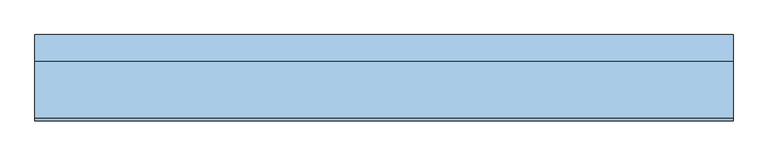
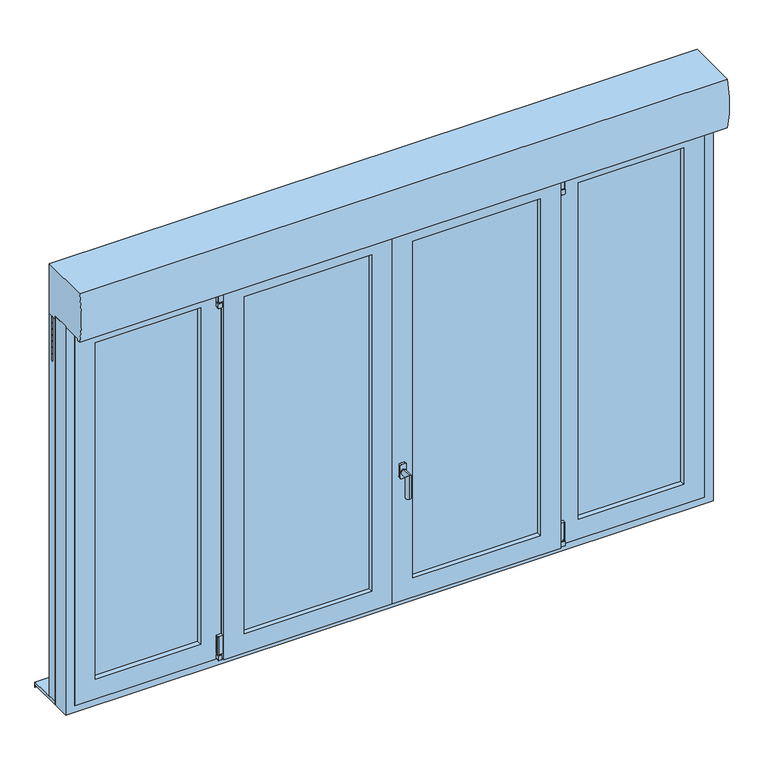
"""IFC4 building model written with IfcOpenShell, lengths in millimetres: window geometry, 9. OF2 + 2 Fixes à G et à D ENR PVC-ALU : 260X165 (LXH) cm."""

from ifc_helpers import new_model, si_unit, point, frame, frame_2d, origin, place, context, project, spatial, polyline, circle_curve, ellipse_curve, trimmed, segment, composite_curve, outline, extrude, faceted_brep, source, transform, mapped, element, save
from ifc_brep_helpers import plane_surface, cylinder_surface, advanced_brep


def window_6b0d1190(model_context):
    return source(origin(), model_context, "Body", "SolidModel", [
        extrude(outline(composite_curve([segment(trimmed(circle_curve(frame_2d((-688.6885562, -107.5530691)), 5.0), [point((-683.6885562, -107.5530691))], [point((-693.6885562, -107.5530691))], False, "CARTESIAN"), True, "CONTINUOUS"), segment(trimmed(circle_curve(frame_2d((-688.6885562, -107.5530691)), 5.0), [point((-693.6885562, -107.5530691))], [point((-683.6885562, -107.5530691))], False, "CARTESIAN"), True, "CONTINUOUS")], self_intersect=False)), frame((0.0, 0.0, 848.448), z_axis=(0.0, 0.0, 1.0), x_axis=(1.0, 0.0, 0.0)), (0.0, 0.0, 1.0), 5.0),
        extrude(outline(composite_curve([segment(polyline([(848.448, -696.1885562), (830.0982054, -696.1885562)]), True, "CONTINUOUS"), segment(trimmed(circle_curve(frame_2d((830.4216694, -694.2148867)), 2.0), [point((830.0982054, -696.1885562))], [point((828.448, -694.5383507))], False, "CARTESIAN"), True, "CONTINUOUS"), segment(polyline([(828.448, -694.5383507), (828.448, -683.1978059)]), True, "CONTINUOUS"), segment(trimmed(circle_curve(frame_2d((830.4572498, -683.1978059)), 2.0092498), [point((828.448, -683.1978059))], [point((830.4572498, -681.1885562))], False, "CARTESIAN"), True, "CONTINUOUS"), segment(polyline([(830.4572498, -681.1885562), (848.448, -681.1885562), (848.448, -696.1885562)]), True, "CONTINUOUS")], self_intersect=False)), frame((0.0, -115.0434807, 0.0), z_axis=(0.0, 1.0, 0.0), x_axis=(0.0, 0.0, 1.0)), (0.0, 0.0, 1.0), 15.0),
        extrude(outline(composite_curve([segment(polyline([(-675.968, -100.0530691), (-675.968, -115.0530691), (-693.9498225, -115.0530691)]), True, "CONTINUOUS"), segment(trimmed(circle_curve(frame_2d((-693.9498225, -113.0348917)), 2.0181775), [point((-693.9498225, -115.0530691))], [point((-695.968, -113.0348917))], False, "CARTESIAN"), True, "CONTINUOUS"), segment(polyline([(-695.968, -113.0348917), (-695.968, -102.0112454)]), True, "CONTINUOUS"), segment(trimmed(circle_curve(frame_2d((-694.0098237, -102.0112454)), 1.9581763), [point((-695.968, -102.0112454))], [point((-694.0098237, -100.0530691))], False, "CARTESIAN"), True, "CONTINUOUS"), segment(polyline([(-694.0098237, -100.0530691), (-675.968, -100.0530691)]), True, "CONTINUOUS")], self_intersect=False)), frame((0.0, 0.0, 853.448), z_axis=(0.0, 0.0, 1.0), x_axis=(1.0, 0.0, 0.0)), (0.0, 0.0, 1.0), 75.0),
        extrude(outline(composite_curve([segment(polyline([(2401.552, -680.968), (2419.5843246, -680.968)]), True, "CONTINUOUS"), segment(trimmed(circle_curve(frame_2d((2419.5843246, -682.9356754)), 1.9676754), [point((2419.5843246, -680.968))], [point((2421.552, -682.9356754))], False, "CARTESIAN"), True, "CONTINUOUS"), segment(polyline([(2421.552, -682.9356754), (2421.552, -693.9743831)]), True, "CONTINUOUS"), segment(trimmed(circle_curve(frame_2d((2419.5583831, -693.9743831)), 1.9936169), [point((2421.552, -693.9743831))], [point((2419.5583831, -695.968))], False, "CARTESIAN"), True, "CONTINUOUS"), segment(polyline([(2419.5583831, -695.968), (2401.552, -695.968), (2401.552, -680.968)]), True, "CONTINUOUS")], self_intersect=False)), frame((0.0, -115.881543, 0.0), z_axis=(0.0, 1.0, 0.0), x_axis=(0.0, 0.0, 1.0)), (0.0, 0.0, 1.0), 15.0),
        extrude(outline(composite_curve([segment(trimmed(circle_curve(frame_2d((-688.6885562, -108.3911314)), 5.0), [point((-683.6885562, -108.3911314))], [point((-693.6885562, -108.3911314))], False, "CARTESIAN"), True, "CONTINUOUS"), segment(trimmed(circle_curve(frame_2d((-688.6885562, -108.3911314)), 5.0), [point((-693.6885562, -108.3911314))], [point((-683.6885562, -108.3911314))], False, "CARTESIAN"), True, "CONTINUOUS")], self_intersect=False)), frame((0.0, 0.0, 2341.552), z_axis=(0.0, 0.0, 1.0), x_axis=(1.0, 0.0, 0.0)), (0.0, 0.0, 1.0), 60.0),
        extrude(outline(composite_curve([segment(polyline([(-675.968, -100.8911314), (-675.968, -115.8911314), (-693.9498225, -115.8911314)]), True, "CONTINUOUS"), segment(trimmed(circle_curve(frame_2d((-693.9498225, -113.8729539)), 2.0181775), [point((-693.9498225, -115.8911314))], [point((-695.968, -113.8729539))], False, "CARTESIAN"), True, "CONTINUOUS"), segment(polyline([(-695.968, -113.8729539), (-695.968, -102.8493076)]), True, "CONTINUOUS"), segment(trimmed(circle_curve(frame_2d((-694.0098237, -102.8493076)), 1.9581763), [point((-695.968, -102.8493076))], [point((-694.0098237, -100.8911314))], False, "CARTESIAN"), True, "CONTINUOUS"), segment(polyline([(-694.0098237, -100.8911314), (-675.968, -100.8911314)]), True, "CONTINUOUS")], self_intersect=False)), frame((0.0, 0.0, 2347.2784618), z_axis=(0.0, 0.0, 1.0), x_axis=(1.0, 0.0, 0.0)), (0.0, 0.0, 1.0), 50.0),
        extrude(outline(composite_curve([segment(polyline([(2342.2784618, -696.1885562), (2323.9286672, -696.1885562)]), True, "CONTINUOUS"), segment(trimmed(circle_curve(frame_2d((2324.2521312, -694.2148867)), 2.0), [point((2323.9286672, -696.1885562))], [point((2322.2784618, -694.5383507))], False, "CARTESIAN"), True, "CONTINUOUS"), segment(polyline([(2322.2784618, -694.5383507), (2322.2784618, -683.1978059)]), True, "CONTINUOUS"), segment(trimmed(circle_curve(frame_2d((2324.2877116, -683.1978059)), 2.0092498), [point((2322.2784618, -683.1978059))], [point((2324.2877116, -681.1885562))], False, "CARTESIAN"), True, "CONTINUOUS"), segment(polyline([(2324.2877116, -681.1885562), (2342.2784618, -681.1885562), (2342.2784618, -696.1885562)]), True, "CONTINUOUS")], self_intersect=False)), frame((0.0, -115.881543, 0.0), z_axis=(0.0, 1.0, 0.0), x_axis=(0.0, 0.0, 1.0)), (0.0, 0.0, 1.0), 15.0),
        extrude(outline(composite_curve([segment(polyline([(2401.552, 680.968), (2401.552, 695.968), (2419.5583831, 695.968)]), True, "CONTINUOUS"), segment(trimmed(circle_curve(frame_2d((2419.5583831, 693.9743831)), 1.9936169), [point((2419.5583831, 695.968))], [point((2421.552, 693.9743831))], False, "CARTESIAN"), True, "CONTINUOUS"), segment(polyline([(2421.552, 693.9743831), (2421.552, 682.9356754)]), True, "CONTINUOUS"), segment(trimmed(circle_curve(frame_2d((2419.5843246, 682.9356754)), 1.9676754), [point((2421.552, 682.9356754))], [point((2419.5843246, 680.968))], False, "CARTESIAN"), True, "CONTINUOUS"), segment(polyline([(2419.5843246, 680.968), (2401.552, 680.968)]), True, "CONTINUOUS")], self_intersect=False)), frame((0.0, -115.881543, 0.0), z_axis=(0.0, 1.0, 0.0), x_axis=(0.0, 0.0, 1.0)), (0.0, 0.0, 1.0), 15.0),
        extrude(outline(composite_curve([segment(trimmed(circle_curve(frame_2d((688.6885562, -108.3911314)), 5.0), [point((683.6885562, -108.3911314))], [point((693.6885562, -108.3911314))], False, "CARTESIAN"), True, "CONTINUOUS"), segment(trimmed(circle_curve(frame_2d((688.6885562, -108.3911314)), 5.0), [point((693.6885562, -108.3911314))], [point((683.6885562, -108.3911314))], False, "CARTESIAN"), True, "CONTINUOUS")], self_intersect=False)), frame((0.0, 0.0, 2341.552), z_axis=(0.0, 0.0, 1.0), x_axis=(1.0, 0.0, 0.0)), (0.0, 0.0, 1.0), 60.0),
        extrude(outline(composite_curve([segment(polyline([(675.968, -100.8911314), (694.0098237, -100.8911314)]), True, "CONTINUOUS"), segment(trimmed(circle_curve(frame_2d((694.0098237, -102.8493076)), 1.9581763), [point((694.0098237, -100.8911314))], [point((695.968, -102.8493076))], False, "CARTESIAN"), True, "CONTINUOUS"), segment(polyline([(695.968, -102.8493076), (695.968, -113.8729539)]), True, "CONTINUOUS"), segment(trimmed(circle_curve(frame_2d((693.9498225, -113.8729539)), 2.0181775), [point((695.968, -113.8729539))], [point((693.9498225, -115.8911314))], False, "CARTESIAN"), True, "CONTINUOUS"), segment(polyline([(693.9498225, -115.8911314), (675.968, -115.8911314), (675.968, -100.8911314)]), True, "CONTINUOUS")], self_intersect=False)), frame((0.0, 0.0, 2347.2784618), z_axis=(0.0, 0.0, 1.0), x_axis=(1.0, 0.0, 0.0)), (0.0, 0.0, 1.0), 50.0),
        extrude(outline(composite_curve([segment(polyline([(2342.2784618, 696.1885562), (2342.2784618, 681.1885562), (2324.2877116, 681.1885562)]), True, "CONTINUOUS"), segment(trimmed(circle_curve(frame_2d((2324.2877116, 683.1978059)), 2.0092498), [point((2324.2877116, 681.1885562))], [point((2322.2784618, 683.1978059))], False, "CARTESIAN"), True, "CONTINUOUS"), segment(polyline([(2322.2784618, 683.1978059), (2322.2784618, 694.5383507)]), True, "CONTINUOUS"), segment(trimmed(circle_curve(frame_2d((2324.2521312, 694.2148867)), 2.0), [point((2322.2784618, 694.5383507))], [point((2323.9286672, 696.1885562))], False, "CARTESIAN"), True, "CONTINUOUS"), segment(polyline([(2323.9286672, 696.1885562), (2342.2784618, 696.1885562)]), True, "CONTINUOUS")], self_intersect=False)), frame((0.0, -115.881543, 0.0), z_axis=(0.0, 1.0, 0.0), x_axis=(0.0, 0.0, 1.0)), (0.0, 0.0, 1.0), 15.0),
        extrude(outline(composite_curve([segment(trimmed(circle_curve(frame_2d((688.6885562, -107.5530691)), 5.0), [point((683.6885562, -107.5530691))], [point((693.6885562, -107.5530691))], False, "CARTESIAN"), True, "CONTINUOUS"), segment(trimmed(circle_curve(frame_2d((688.6885562, -107.5530691)), 5.0), [point((693.6885562, -107.5530691))], [point((683.6885562, -107.5530691))], False, "CARTESIAN"), True, "CONTINUOUS")], self_intersect=False)), frame((0.0, 0.0, 848.448), z_axis=(0.0, 0.0, 1.0), x_axis=(1.0, 0.0, 0.0)), (0.0, 0.0, 1.0), 5.0),
        extrude(outline(composite_curve([segment(polyline([(848.448, 696.1885562), (848.448, 681.1885562), (830.4572498, 681.1885562)]), True, "CONTINUOUS"), segment(trimmed(circle_curve(frame_2d((830.4572498, 683.1978059)), 2.0092498), [point((830.4572498, 681.1885562))], [point((828.448, 683.1978059))], False, "CARTESIAN"), True, "CONTINUOUS"), segment(polyline([(828.448, 683.1978059), (828.448, 694.5383507)]), True, "CONTINUOUS"), segment(trimmed(circle_curve(frame_2d((830.4216694, 694.2148867)), 2.0), [point((828.448, 694.5383507))], [point((830.0982054, 696.1885562))], False, "CARTESIAN"), True, "CONTINUOUS"), segment(polyline([(830.0982054, 696.1885562), (848.448, 696.1885562)]), True, "CONTINUOUS")], self_intersect=False)), frame((0.0, -115.0434807, 0.0), z_axis=(0.0, 1.0, 0.0), x_axis=(0.0, 0.0, 1.0)), (0.0, 0.0, 1.0), 15.0),
        extrude(outline(composite_curve([segment(polyline([(675.968, -100.0530691), (694.0098237, -100.0530691)]), True, "CONTINUOUS"), segment(trimmed(circle_curve(frame_2d((694.0098237, -102.0112454)), 1.9581763), [point((694.0098237, -100.0530691))], [point((695.968, -102.0112454))], False, "CARTESIAN"), True, "CONTINUOUS"), segment(polyline([(695.968, -102.0112454), (695.968, -113.0348917)]), True, "CONTINUOUS"), segment(trimmed(circle_curve(frame_2d((693.9498225, -113.0348917)), 2.0181775), [point((695.968, -113.0348917))], [point((693.9498225, -115.0530691))], False, "CARTESIAN"), True, "CONTINUOUS"), segment(polyline([(693.9498225, -115.0530691), (675.968, -115.0530691), (675.968, -100.0530691)]), True, "CONTINUOUS")], self_intersect=False)), frame((0.0, 0.0, 853.448), z_axis=(0.0, 0.0, 1.0), x_axis=(1.0, 0.0, 0.0)), (0.0, 0.0, 1.0), 75.0),
        advanced_brep(
        [(46.5, -129.3239543, 1414.448), (31.5, -129.3239543, 1414.448), (26.5, -129.3239543, 1409.448), (26.5, -129.3239543, 1359.448), (31.5, -129.3239543, 1354.448), (46.5, -129.3239543, 1354.448), (51.5, -129.3239543, 1359.448), (51.5, -129.3239543, 1409.448), (39.2771873, -129.3239543, 1392.2518349), (39.2771873, -129.3239543, 1372.2518349), (46.5, -117.4674689, 1414.448), (51.5, -117.4674689, 1409.448), (51.5, -117.4674689, 1359.448), (46.5, -117.4674689, 1354.448), (31.5, -117.4674689, 1354.448), (26.5, -117.4674689, 1359.448), (26.5, -117.4674689, 1409.448), (31.5, -117.4674689, 1414.448), (39.2771873, -133.0531938, 1372.2518349), (39.2771873, -133.0531938, 1392.2518349), (39.2771873, -173.0531938, 1392.2518349), (39.2771873, -153.0531938, 1372.2518349), (39.2771873, -173.0531938, 1292.2518349), (39.2771873, -153.0531938, 1292.2518349)],
        [
            (0, 1),
            (1, 2, circle_curve(frame((31.5, -129.3239543, 1409.448), z_axis=(0.0, -1.0, 0.0), x_axis=(-1.0, 0.0, 0.0)), 5.0)),
            (2, 3),
            (3, 4, circle_curve(frame((31.5, -129.3239543, 1359.448), z_axis=(0.0, -1.0, 0.0), x_axis=(-1.0, 0.0, 0.0)), 5.0)),
            (4, 5),
            (5, 6, circle_curve(frame((46.5, -129.3239543, 1359.448), z_axis=(0.0, -1.0, 0.0), x_axis=(-1.0, 0.0, 0.0)), 5.0)),
            (6, 7),
            (7, 0, circle_curve(frame((46.5, -129.3239543, 1409.448), z_axis=(0.0, -1.0, 0.0), x_axis=(-1.0, 0.0, 0.0)), 5.0)),
            (8, 9, circle_curve(frame((39.2771873, -129.3239543, 1382.2518349), z_axis=(0.0, 1.0, 0.0), x_axis=(0.0, 0.0, -1.0)), 10.0)),
            (9, 8, circle_curve(frame((39.2771873, -129.3239543, 1382.2518349), z_axis=(0.0, 1.0, 0.0), x_axis=(0.0, 0.0, -1.0)), 10.0)),
            (10, 11, circle_curve(frame((46.5, -117.4674689, 1409.448), z_axis=(0.0, 1.0, 0.0), x_axis=(-1.0, 0.0, 0.0)), 5.0)),
            (11, 12),
            (12, 13, circle_curve(frame((46.5, -117.4674689, 1359.448), z_axis=(0.0, 1.0, 0.0), x_axis=(-1.0, 0.0, 0.0)), 5.0)),
            (13, 14),
            (14, 15, circle_curve(frame((31.5, -117.4674689, 1359.448), z_axis=(0.0, 1.0, 0.0), x_axis=(-1.0, 0.0, 0.0)), 5.0)),
            (15, 16),
            (16, 17, circle_curve(frame((31.5, -117.4674689, 1409.448), z_axis=(0.0, 1.0, 0.0), x_axis=(-1.0, 0.0, 0.0)), 5.0)),
            (17, 10),
            (7, 11),
            (10, 0),
            (6, 12),
            (5, 13),
            (4, 14),
            (3, 15),
            (2, 16),
            (1, 17),
            (18, 19, circle_curve(frame((39.2771873, -133.0531938, 1382.2518349), z_axis=(0.0, -1.0, 0.0), x_axis=(0.0, 0.0, -1.0)), 10.0)),
            (19, 20),
            (20, 21, ellipse_curve(frame((39.2771873, -163.0531938, 1382.2518349), z_axis=(0.0, 0.7071067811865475, 0.7071067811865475), x_axis=(0.0, 0.7071067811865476, -0.7071067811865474)), 14.1421356, 10.0)),
            (21, 18),
            (19, 18, circle_curve(frame((39.2771873, -133.0531938, 1382.2518349), z_axis=(0.0, -1.0, 0.0), x_axis=(0.0, 0.0, -1.0)), 10.0)),
            (21, 20, ellipse_curve(frame((39.2771873, -163.0531938, 1382.2518349), z_axis=(0.0, 0.7071067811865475, 0.7071067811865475), x_axis=(0.0, 0.7071067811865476, -0.7071067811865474)), 14.1421356, 10.0)),
            (22, 23, circle_curve(frame((39.2771873, -163.0531938, 1292.2518349), z_axis=(0.0, 0.0, -1.0), x_axis=(0.0, 1.0, 0.0)), 10.0)),
            (23, 22, circle_curve(frame((39.2771873, -163.0531938, 1292.2518349), z_axis=(0.0, 0.0, -1.0), x_axis=(0.0, 1.0, 0.0)), 10.0)),
            (20, 22),
            (23, 21),
            (18, 9),
            (8, 19),
        ],
        [
            plane_surface(frame((41.5, -129.3239543, 1409.448), z_axis=(0.0, -1.0, 0.0), x_axis=(0.0, 0.0, -1.0))),
            plane_surface(frame((41.5, -117.4674689, 1409.448), z_axis=(0.0, 1.0, 0.0), x_axis=(0.0, 0.0, 1.0))),
            cylinder_surface(frame((46.5, -129.3239543, 1409.448), z_axis=(0.0, 1.0, 0.0), x_axis=(-1.0, 0.0, 0.0)), 5.0),
            plane_surface(frame((51.5, -117.4674689, 1409.448), z_axis=(1.0, 0.0, 0.0), x_axis=(0.0, -1.0, 0.0))),
            cylinder_surface(frame((46.5, -129.3239543, 1359.448), z_axis=(0.0, 1.0, 0.0), x_axis=(-1.0, 0.0, 0.0)), 5.0),
            plane_surface(frame((46.5, -117.4674689, 1354.448), z_axis=(0.0, 0.0, -1.0), x_axis=(0.0, -1.0, 0.0))),
            cylinder_surface(frame((31.5, -129.3239543, 1359.448), z_axis=(0.0, 1.0, 0.0), x_axis=(-1.0, 0.0, 0.0)), 5.0),
            plane_surface(frame((26.5, -117.4674689, 1359.448), z_axis=(-1.0, 0.0, 0.0), x_axis=(0.0, -1.0, 0.0))),
            cylinder_surface(frame((31.5, -129.3239543, 1409.448), z_axis=(0.0, 1.0, 0.0), x_axis=(-1.0, 0.0, 0.0)), 5.0),
            plane_surface(frame((31.5, -117.4674689, 1414.448), z_axis=(0.0, 0.0, 1.0), x_axis=(0.0, -1.0, 0.0))),
            cylinder_surface(frame((39.2771873, -133.0531938, 1382.2518349), z_axis=(0.0, 1.0, 0.0), x_axis=(0.0, 0.0, -1.0)), 10.0),
            plane_surface(frame((51.5, -163.0531938, 1292.2518349), z_axis=(0.0, 0.0, -1.0), x_axis=(1.0, 0.0, 0.0))),
            cylinder_surface(frame((39.2771873, -163.0531938, 1382.2518349), z_axis=(0.0, 0.0, 1.0), x_axis=(0.0, 1.0, 0.0)), 10.0),
            cylinder_surface(frame((39.2771873, -129.3239543, 1382.2518349), z_axis=(0.0, 1.0, 0.0), x_axis=(0.0, 0.0, -1.0)), 10.0),
        ],
        [
            (0, [[1, 2, 3, 4, 5, 6, 7, 8], [9, 10]]),
            (1, [[11, 12, 13, 14, 15, 16, 17, 18]]),
            (2, [[-8, 19, -11, 20]]),
            (3, [[-7, 21, -12, -19]]),
            (4, [[-6, 22, -13, -21]]),
            (5, [[-5, 23, -14, -22]]),
            (6, [[-4, 24, -15, -23]]),
            (7, [[-3, 25, -16, -24]]),
            (8, [[-2, 26, -17, -25]]),
            (9, [[-1, -20, -18, -26]]),
            (10, [[27, 28, 29, 30]]),
            (10, [[-28, 31, -30, 32]]),
            (11, [[33, 34]]),
            (12, [[-29, 35, -34, 36]]),
            (12, [[-32, -36, -33, -35]]),
            (13, [[-27, 37, -9, 38]]),
            (13, [[-31, -38, -10, -37]]),
        ],
    ),
        faceted_brep([(-1300.0, -100.02, 2450.0), (-1300.0, -28.9, 2450.0), (-1300.0, -28.9, 800.0), (-1300.0, -100.02, 800.0), (1300.0, -28.9, 2450.0), (1300.0, -28.9, 800.0), (-1242.0983858, -28.9, 857.9016142), (1242.0983858, -28.9, 857.9016142), (1242.0983858, -28.9, 2392.0983858), (-1242.0983858, -28.9, 2392.0983858), (1300.0, -100.02, 800.0), (1300.0, -100.02, 2450.0), (-1263.424, -100.02, 2413.424), (1263.424, -100.02, 2413.424), (1263.424, -100.02, 836.576), (-1263.424, -100.02, 836.576), (-1263.424, -44.648, 2413.424), (-1263.424, -44.648, 836.576), (1263.424, -44.648, 836.576), (1263.424, -44.648, 2413.424), (-1242.0983858, -44.648, 2392.0983858), (1242.0983858, -44.648, 2392.0983858), (1242.0983858, -44.648, 857.9016142), (-1242.0983858, -44.648, 857.9016142)], [[[0, 1, 2, 3]], [[1, 4, 5, 2], [6, 7, 8, 9]], [[3, 2, 5, 10]], [[3, 10, 11, 0], [12, 13, 14, 15]], [[16, 12, 15, 17]], [[17, 15, 14, 18]], [[17, 18, 19, 16], [20, 21, 22, 23]], [[9, 20, 23, 6]], [[6, 23, 22, 7]], [[10, 5, 4, 11]], [[18, 14, 13, 19]], [[7, 22, 21, 8]], [[11, 4, 1, 0]], [[19, 13, 12, 16]], [[8, 21, 20, 9]]]),
        extrude(outline(polyline([(1195.324, -50.213906), (1195.324, -54.213906), (744.124, -54.213906), (744.124, -50.213906), (1195.324, -50.213906)])), frame((0.0, 0.0, 896.5824883), z_axis=(0.0, 0.0, 1.0), x_axis=(1.0, 0.0, 0.0)), (0.0, 0.0, 1.0), 1456.8350233),
        extrude(outline(polyline([(1195.324, -74.213906), (1195.324, -78.213906), (744.124, -78.213906), (744.124, -74.213906), (1195.324, -74.213906)])), frame((0.0, 0.0, 896.5824883), z_axis=(0.0, 0.0, 1.0), x_axis=(1.0, 0.0, 0.0)), (0.0, 0.0, 1.0), 1456.8350233),
        extrude(outline(polyline([(607.8464883, -96.019954), (607.8464883, -100.019954), (68.1464883, -100.019954), (68.1464883, -96.019954), (607.8464883, -96.019954)])), frame((0.0, 0.0, 896.5824883), z_axis=(0.0, 0.0, 1.0), x_axis=(1.0, 0.0, 0.0)), (0.0, 0.0, 1.0), 1456.8350233),
        extrude(outline(polyline([(607.8464883, -68.9786213), (607.8464883, -72.9786213), (68.1464883, -72.9786213), (68.1464883, -68.9786213), (607.8464883, -68.9786213)])), frame((0.0, 0.0, 896.5824883), z_axis=(0.0, 0.0, 1.0), x_axis=(1.0, 0.0, 0.0)), (0.0, 0.0, 1.0), 1456.8350233),
        extrude(outline(polyline([(607.8464883, -41.5821328), (607.8464883, -47.5821328), (68.1464883, -47.5821328), (68.1464883, -41.5821328), (607.8464883, -41.5821328)])), frame((0.0, 0.0, 896.5824883), z_axis=(0.0, 0.0, 1.0), x_axis=(1.0, 0.0, 0.0)), (0.0, 0.0, 1.0), 1456.8350233),
        faceted_brep([(705.4216142, -44.648, 857.9016142), (705.4216142, -28.9, 857.9016142), (1233.9703858, -28.9, 857.9016142), (1233.9703858, -44.648, 857.9016142), (1233.9703858, -28.9, 2392.0983858), (1233.9703858, -44.648, 2392.0983858), (705.4216142, -28.9, 2392.0983858), (1181.3960492, -28.9, 2339.5240492), (757.9959508, -28.9, 2339.5240492), (757.9959508, -28.9, 910.4759508), (1181.3960492, -28.9, 910.4759508), (1263.424, -44.648, 828.448), (675.968, -44.648, 828.448), (675.968, -44.648, 2421.552), (1263.424, -44.648, 2421.552), (705.4216142, -44.648, 2392.0983858), (1263.424, -100.963906, 2421.552), (1263.424, -100.963906, 828.448), (675.968, -100.963906, 2421.552), (675.968, -100.963906, 828.448), (1181.3960492, -100.963906, 910.4759508), (757.9959508, -100.963906, 910.4759508), (757.9959508, -100.963906, 2339.5240492), (1181.3960492, -100.963906, 2339.5240492), (757.9959508, -50.213906, 910.4759508), (1181.3960492, -50.213906, 910.4759508), (1181.3960492, -50.213906, 2339.5240492), (1195.2895117, -50.213906, 2353.4175117), (744.1024883, -50.213906, 2353.4175117), (744.1024883, -50.213906, 896.5824883), (1195.2895117, -50.213906, 896.5824883), (757.9959508, -50.213906, 2339.5240492), (744.1024883, -54.213906, 896.5824883), (1195.2895117, -54.213906, 896.5824883), (1195.2895117, -54.213906, 2353.4175117), (744.1024883, -54.213906, 2353.4175117), (1181.3960492, -54.213906, 2339.5240492), (757.9959508, -54.213906, 2339.5240492), (757.9959508, -54.213906, 910.4759508), (1181.3960492, -54.213906, 910.4759508), (757.9959508, -78.213906, 910.4759508), (1181.3960492, -78.213906, 910.4759508), (1181.3960492, -78.213906, 2339.5240492), (1195.2895117, -78.213906, 896.5824883), (744.1024883, -78.213906, 896.5824883), (744.1024883, -78.213906, 2353.4175117), (1195.2895117, -78.213906, 2353.4175117), (757.9959508, -78.213906, 2339.5240492), (757.9959508, -74.213906, 910.4759508), (1181.3960492, -74.213906, 910.4759508), (1181.3960492, -74.213906, 2339.5240492), (1195.2895117, -74.213906, 2353.4175117), (744.1024883, -74.213906, 2353.4175117), (744.1024883, -74.213906, 896.5824883), (1195.2895117, -74.213906, 896.5824883), (757.9959508, -74.213906, 2339.5240492)], [[[0, 1, 2, 3]], [[3, 2, 4, 5]], [[2, 1, 6, 4], [7, 8, 9, 10]], [[11, 12, 13, 14], [5, 15, 0, 3]], [[11, 14, 16, 17]], [[16, 18, 19, 17], [20, 21, 22, 23]], [[19, 12, 11, 17]], [[9, 24, 25, 10]], [[10, 25, 26, 7]], [[27, 28, 29, 30], [25, 24, 31, 26]], [[29, 32, 33, 30]], [[30, 33, 34, 27]], [[33, 32, 35, 34], [36, 37, 38, 39]], [[40, 21, 20, 41]], [[41, 20, 23, 42]], [[43, 44, 45, 46], [42, 47, 40, 41]], [[38, 48, 49, 39]], [[39, 49, 50, 36]], [[51, 52, 53, 54], [49, 48, 55, 50]], [[53, 44, 43, 54]], [[54, 43, 46, 51]], [[8, 31, 24, 9]], [[28, 35, 32, 29]], [[37, 55, 48, 38]], [[52, 45, 44, 53]], [[47, 22, 21, 40]], [[18, 13, 12, 19]], [[15, 6, 1, 0]], [[5, 4, 6, 15]], [[16, 14, 13, 18]], [[7, 26, 31, 8]], [[27, 34, 35, 28]], [[42, 23, 22, 47]], [[36, 50, 55, 37]], [[51, 46, 45, 52]]]),
        faceted_brep([(607.8335117, -72.9786213, 2353.4175117), (607.8335117, -68.9786213, 2353.4175117), (607.8335117, -68.9786213, 896.5824883), (607.8335117, -72.9786213, 896.5824883), (68.1464883, -68.9786213, 2353.4175117), (68.1464883, -68.9786213, 896.5824883), (590.6134041, -68.9786213, 913.8025959), (85.3665959, -68.9786213, 913.8025959), (85.3665959, -68.9786213, 2336.1974041), (590.6134041, -68.9786213, 2336.1974041), (68.1464883, -72.9786213, 896.5824883), (68.1464883, -72.9786213, 2353.4175117), (593.9400492, -72.9786213, 2339.5240492), (82.0399508, -72.9786213, 2339.5240492), (82.0399508, -72.9786213, 910.4759508), (593.9400492, -72.9786213, 910.4759508), (590.6134041, -47.5821328, 2336.1974041), (590.6134041, -47.5821328, 913.8025959), (607.8335117, -47.5821328, 896.5824883), (68.1464883, -47.5821328, 896.5824883), (68.1464883, -47.5821328, 2353.4175117), (607.8335117, -47.5821328, 2353.4175117), (85.3665959, -47.5821328, 2336.1974041), (85.3665959, -47.5821328, 913.8025959), (607.8335117, -41.5821328, 2353.4175117), (607.8335117, -41.5821328, 896.5824883), (68.1464883, -41.5821328, 2353.4175117), (68.1464883, -41.5821328, 896.5824883), (589.7553386, -41.5821328, 914.6606614), (86.2246614, -41.5821328, 914.6606614), (86.2246614, -41.5821328, 2335.3393386), (589.7553386, -41.5821328, 2335.3393386), (589.7553386, -28.7475756, 2335.3393386), (589.7553386, -28.7475756, 914.6606614), (640.9674701, -28.7475756, 863.4485299), (35.0125299, -28.7475756, 863.4485299), (35.0125299, -28.7475756, 2386.5514701), (640.9674701, -28.7475756, 2386.5514701), (86.2246614, -28.7475756, 2335.3393386), (86.2246614, -28.7475756, 914.6606614), (640.9674701, -48.2039543, 2386.5514701), (640.9674701, -48.2039543, 863.4485299), (35.0125299, -48.2039543, 2386.5514701), (35.0125299, -48.2039543, 863.4485299), (616.0246701, -48.2039543, 888.3913299), (59.9553299, -48.2039543, 888.3913299), (59.9553299, -48.2039543, 2361.6086701), (616.0246701, -48.2039543, 2361.6086701), (616.0246701, -100.019954, 2361.6086701), (616.0246701, -100.019954, 888.3913299), (59.9553299, -100.019954, 2361.6086701), (59.9553299, -100.019954, 888.3913299), (607.8335117, -100.019954, 896.5824883), (68.1464883, -100.019954, 896.5824883), (68.1464883, -100.019954, 2353.4175117), (607.8335117, -100.019954, 2353.4175117), (607.8335117, -96.019954, 2353.4175117), (607.8335117, -96.019954, 896.5824883), (68.1464883, -96.019954, 2353.4175117), (68.1464883, -96.019954, 896.5824883), (593.9400492, -96.019954, 910.4759508), (82.0399508, -96.019954, 910.4759508), (82.0399508, -96.019954, 2339.5240492), (593.9400492, -96.019954, 2339.5240492)], [[[0, 1, 2, 3]], [[1, 4, 5, 2], [6, 7, 8, 9]], [[3, 2, 5, 10]], [[3, 10, 11, 0], [12, 13, 14, 15]], [[9, 16, 17, 6]], [[18, 19, 20, 21], [16, 22, 23, 17]], [[6, 17, 23, 7]], [[21, 24, 25, 18]], [[24, 26, 27, 25], [28, 29, 30, 31]], [[18, 25, 27, 19]], [[31, 32, 33, 28]], [[34, 35, 36, 37], [32, 38, 39, 33]], [[28, 33, 39, 29]], [[37, 40, 41, 34]], [[40, 42, 43, 41], [44, 45, 46, 47]], [[34, 41, 43, 35]], [[47, 48, 49, 44]], [[48, 50, 51, 49], [52, 53, 54, 55]], [[44, 49, 51, 45]], [[55, 56, 57, 52]], [[56, 58, 59, 57], [60, 61, 62, 63]], [[52, 57, 59, 53]], [[63, 12, 15, 60]], [[60, 15, 14, 61]], [[10, 5, 4, 11]], [[7, 23, 22, 8]], [[19, 27, 26, 20]], [[29, 39, 38, 30]], [[35, 43, 42, 36]], [[45, 51, 50, 46]], [[53, 59, 58, 54]], [[61, 14, 13, 62]], [[11, 4, 1, 0]], [[8, 22, 16, 9]], [[20, 26, 24, 21]], [[30, 38, 32, 31]], [[36, 42, 40, 37]], [[46, 50, 48, 47]], [[54, 58, 56, 55]], [[62, 13, 12, 63]]]),
        faceted_brep([(0.012, -119.3239543, 828.448), (0.012, -100.0434807, 828.448), (675.968, -100.0434807, 828.448), (675.968, -119.3239543, 828.448), (675.968, -100.0434807, 2421.552), (675.968, -119.3239543, 2421.552), (0.012, -100.0434807, 2421.552), (655.648, -100.0434807, 2401.232), (20.332, -100.0434807, 2401.232), (20.332, -100.0434807, 848.768), (655.648, -100.0434807, 848.768), (0.012, -119.3239543, 2421.552), (593.7665043, -119.3239543, 910.6494957), (82.2134957, -119.3239543, 910.6494957), (82.2134957, -119.3239543, 2339.3505043), (593.7665043, -119.3239543, 2339.3505043), (82.2134957, -100.019954, 910.6494957), (593.7665043, -100.019954, 910.6494957), (593.7665043, -100.019954, 2339.3505043), (616.0246701, -100.019954, 888.3913299), (59.9553299, -100.019954, 888.3913299), (59.9553299, -100.019954, 2361.6086701), (616.0246701, -100.019954, 2361.6086701), (82.2134957, -100.019954, 2339.3505043), (59.9553299, -48.2039543, 888.3913299), (616.0246701, -48.2039543, 888.3913299), (616.0246701, -48.2039543, 2361.6086701), (646.5143858, -48.2039543, 857.9016142), (29.4656142, -48.2039543, 857.9016142), (29.4656142, -48.2039543, 2392.0983858), (646.5143858, -48.2039543, 2392.0983858), (59.9553299, -48.2039543, 2361.6086701), (29.4656142, -44.648, 857.9016142), (646.5143858, -44.648, 857.9016142), (646.5143858, -44.648, 2392.0983858), (655.648, -44.648, 848.768), (20.332, -44.648, 848.768), (20.332, -44.648, 2401.232), (655.648, -44.648, 2401.232), (29.4656142, -44.648, 2392.0983858)], [[[0, 1, 2, 3]], [[3, 2, 4, 5]], [[2, 1, 6, 4], [7, 8, 9, 10]], [[5, 11, 0, 3], [12, 13, 14, 15]], [[16, 13, 12, 17]], [[17, 12, 15, 18]], [[19, 20, 21, 22], [18, 23, 16, 17]], [[24, 20, 19, 25]], [[25, 19, 22, 26]], [[27, 28, 29, 30], [26, 31, 24, 25]], [[32, 28, 27, 33]], [[33, 27, 30, 34]], [[35, 36, 37, 38], [34, 39, 32, 33]], [[9, 36, 35, 10]], [[10, 35, 38, 7]], [[8, 37, 36, 9]], [[39, 29, 28, 32]], [[31, 21, 20, 24]], [[23, 14, 13, 16]], [[11, 6, 1, 0]], [[5, 4, 6, 11]], [[18, 15, 14, 23]], [[26, 22, 21, 31]], [[34, 30, 29, 39]], [[7, 38, 37, 8]]]),
        extrude(outline(polyline([(-1195.324, -54.213906), (-1195.324, -50.213906), (-744.124, -50.213906), (-744.124, -54.213906), (-1195.324, -54.213906)])), frame((0.0, 0.0, 896.5824883), z_axis=(0.0, 0.0, 1.0), x_axis=(1.0, 0.0, 0.0)), (0.0, 0.0, 1.0), 1456.8350233),
        extrude(outline(polyline([(-1195.324, -78.213906), (-1195.324, -74.213906), (-744.124, -74.213906), (-744.124, -78.213906), (-1195.324, -78.213906)])), frame((0.0, 0.0, 896.5824883), z_axis=(0.0, 0.0, 1.0), x_axis=(1.0, 0.0, 0.0)), (0.0, 0.0, 1.0), 1456.8350233),
        extrude(outline(polyline([(-607.8464883, -100.019954), (-607.8464883, -96.019954), (-68.1464883, -96.019954), (-68.1464883, -100.019954), (-607.8464883, -100.019954)])), frame((0.0, 0.0, 896.5824883), z_axis=(0.0, 0.0, 1.0), x_axis=(1.0, 0.0, 0.0)), (0.0, 0.0, 1.0), 1456.8350233),
        extrude(outline(polyline([(-607.8464883, -72.9786213), (-607.8464883, -68.9786213), (-68.1464883, -68.9786213), (-68.1464883, -72.9786213), (-607.8464883, -72.9786213)])), frame((0.0, 0.0, 896.5824883), z_axis=(0.0, 0.0, 1.0), x_axis=(1.0, 0.0, 0.0)), (0.0, 0.0, 1.0), 1456.8350233),
        extrude(outline(polyline([(-607.8464883, -47.5821328), (-607.8464883, -41.5821328), (-68.1464883, -41.5821328), (-68.1464883, -47.5821328), (-607.8464883, -47.5821328)])), frame((0.0, 0.0, 896.5824883), z_axis=(0.0, 0.0, 1.0), x_axis=(1.0, 0.0, 0.0)), (0.0, 0.0, 1.0), 1456.8350233),
        extrude(outline(polyline([(-20.332, -100.0434807), (-20.332, -44.648), (-35.0165299, -44.648), (-35.0165299, -28.7475756), (34.9845299, -28.7475756), (34.9845299, -44.648), (20.308, -44.648), (20.308, -100.0434807), (-20.332, -100.0434807)])), frame((0.0, 0.0, 857.9016142), z_axis=(0.0, 0.0, 1.0), x_axis=(1.0, 0.0, 0.0)), (0.0, 0.0, 1.0), 1534.2),
        extrude(outline(polyline([(-640.9674701, -28.9), (-640.9674701, -44.648), (-655.648, -44.648), (-655.648, -100.0), (-675.94, -100.0), (-675.94, -44.648), (-705.4216142, -44.648), (-705.4216142, -28.9), (-640.9674701, -28.9)])), frame((0.0, 0.0, 857.9016142), z_axis=(0.0, 0.0, 1.0), x_axis=(1.0, 0.0, 0.0)), (0.0, 0.0, 1.0), 1534.2),
        extrude(outline(polyline([(640.9674701, -28.9), (705.4216142, -28.9), (705.4216142, -44.648), (675.94, -44.648), (675.94, -100.0), (655.648, -100.0), (655.648, -44.648), (640.9674701, -44.648), (640.9674701, -28.9)])), frame((0.0, 0.0, 857.9016142), z_axis=(0.0, 0.0, 1.0), x_axis=(1.0, 0.0, 0.0)), (0.0, 0.0, 1.0), 1534.2),
        faceted_brep([(-705.4216142, -28.9, 857.9016142), (-705.4216142, -44.648, 857.9016142), (-1233.9703858, -44.648, 857.9016142), (-1233.9703858, -28.9, 857.9016142), (-1233.9703858, -44.648, 2392.0983858), (-1233.9703858, -28.9, 2392.0983858), (-1263.424, -44.648, 2421.552), (-675.968, -44.648, 2421.552), (-675.968, -44.648, 828.448), (-1263.424, -44.648, 828.448), (-705.4216142, -44.648, 2392.0983858), (-705.4216142, -28.9, 2392.0983858), (-1181.3960492, -28.9, 910.4759508), (-757.9959508, -28.9, 910.4759508), (-757.9959508, -28.9, 2339.5240492), (-1181.3960492, -28.9, 2339.5240492), (-1263.424, -100.963906, 828.448), (-1263.424, -100.963906, 2421.552), (-675.968, -100.963906, 828.448), (-675.968, -100.963906, 2421.552), (-1181.3960492, -100.963906, 2339.5240492), (-757.9959508, -100.963906, 2339.5240492), (-757.9959508, -100.963906, 910.4759508), (-1181.3960492, -100.963906, 910.4759508), (-757.9959508, -50.213906, 910.4759508), (-1181.3960492, -50.213906, 910.4759508), (-1181.3960492, -50.213906, 2339.5240492), (-1195.2895117, -50.213906, 896.5824883), (-744.1024883, -50.213906, 896.5824883), (-744.1024883, -50.213906, 2353.4175117), (-1195.2895117, -50.213906, 2353.4175117), (-757.9959508, -50.213906, 2339.5240492), (-744.1024883, -54.213906, 896.5824883), (-1195.2895117, -54.213906, 896.5824883), (-1195.2895117, -54.213906, 2353.4175117), (-744.1024883, -54.213906, 2353.4175117), (-1181.3960492, -54.213906, 910.4759508), (-757.9959508, -54.213906, 910.4759508), (-757.9959508, -54.213906, 2339.5240492), (-1181.3960492, -54.213906, 2339.5240492), (-757.9959508, -78.213906, 910.4759508), (-1181.3960492, -78.213906, 910.4759508), (-1181.3960492, -78.213906, 2339.5240492), (-1195.2895117, -78.213906, 2353.4175117), (-744.1024883, -78.213906, 2353.4175117), (-744.1024883, -78.213906, 896.5824883), (-1195.2895117, -78.213906, 896.5824883), (-757.9959508, -78.213906, 2339.5240492), (-757.9959508, -74.213906, 910.4759508), (-1181.3960492, -74.213906, 910.4759508), (-1181.3960492, -74.213906, 2339.5240492), (-1195.2895117, -74.213906, 896.5824883), (-744.1024883, -74.213906, 896.5824883), (-744.1024883, -74.213906, 2353.4175117), (-1195.2895117, -74.213906, 2353.4175117), (-757.9959508, -74.213906, 2339.5240492)], [[[0, 1, 2, 3]], [[3, 2, 4, 5]], [[6, 7, 8, 9], [2, 1, 10, 4]], [[5, 11, 0, 3], [12, 13, 14, 15]], [[16, 17, 6, 9]], [[16, 18, 19, 17], [20, 21, 22, 23]], [[8, 18, 16, 9]], [[24, 13, 12, 25]], [[25, 12, 15, 26]], [[27, 28, 29, 30], [26, 31, 24, 25]], [[32, 28, 27, 33]], [[33, 27, 30, 34]], [[34, 35, 32, 33], [36, 37, 38, 39]], [[22, 40, 41, 23]], [[23, 41, 42, 20]], [[43, 44, 45, 46], [41, 40, 47, 42]], [[48, 37, 36, 49]], [[49, 36, 39, 50]], [[51, 52, 53, 54], [50, 55, 48, 49]], [[45, 52, 51, 46]], [[46, 51, 54, 43]], [[31, 14, 13, 24]], [[35, 29, 28, 32]], [[55, 38, 37, 48]], [[44, 53, 52, 45]], [[21, 47, 40, 22]], [[7, 19, 18, 8]], [[11, 10, 1, 0]], [[5, 4, 10, 11]], [[6, 17, 19, 7]], [[26, 15, 14, 31]], [[34, 30, 29, 35]], [[20, 42, 47, 21]], [[50, 39, 38, 55]], [[43, 54, 53, 44]]]),
        faceted_brep([(-607.8335117, -68.9786213, 2353.4175117), (-607.8335117, -72.9786213, 2353.4175117), (-607.8335117, -72.9786213, 896.5824883), (-607.8335117, -68.9786213, 896.5824883), (-68.1464883, -72.9786213, 2353.4175117), (-68.1464883, -72.9786213, 896.5824883), (-593.9400492, -72.9786213, 910.4759508), (-82.0399508, -72.9786213, 910.4759508), (-82.0399508, -72.9786213, 2339.5240492), (-593.9400492, -72.9786213, 2339.5240492), (-68.1464883, -68.9786213, 896.5824883), (-68.1464883, -68.9786213, 2353.4175117), (-590.6134041, -68.9786213, 2336.1974041), (-85.3665959, -68.9786213, 2336.1974041), (-85.3665959, -68.9786213, 913.8025959), (-590.6134041, -68.9786213, 913.8025959), (-590.6134041, -47.5821328, 2336.1974041), (-590.6134041, -47.5821328, 913.8025959), (-85.3665959, -47.5821328, 913.8025959), (-607.8335117, -47.5821328, 2353.4175117), (-68.1464883, -47.5821328, 2353.4175117), (-68.1464883, -47.5821328, 896.5824883), (-607.8335117, -47.5821328, 896.5824883), (-85.3665959, -47.5821328, 2336.1974041), (-607.8335117, -41.5821328, 2353.4175117), (-607.8335117, -41.5821328, 896.5824883), (-68.1464883, -41.5821328, 896.5824883), (-68.1464883, -41.5821328, 2353.4175117), (-589.7553386, -41.5821328, 2335.3393386), (-86.2246614, -41.5821328, 2335.3393386), (-86.2246614, -41.5821328, 914.6606614), (-589.7553386, -41.5821328, 914.6606614), (-589.7553386, -28.7475756, 2335.3393386), (-589.7553386, -28.7475756, 914.6606614), (-86.2246614, -28.7475756, 914.6606614), (-640.9674701, -28.7475756, 2386.5514701), (-35.0125299, -28.7475756, 2386.5514701), (-35.0125299, -28.7475756, 863.4485299), (-640.9674701, -28.7475756, 863.4485299), (-86.2246614, -28.7475756, 2335.3393386), (-640.9674701, -48.2039543, 2386.5514701), (-640.9674701, -48.2039543, 863.4485299), (-35.0125299, -48.2039543, 863.4485299), (-35.0125299, -48.2039543, 2386.5514701), (-616.0246701, -48.2039543, 2361.6086701), (-59.9553299, -48.2039543, 2361.6086701), (-59.9553299, -48.2039543, 888.3913299), (-616.0246701, -48.2039543, 888.3913299), (-616.0246701, -100.019954, 2361.6086701), (-616.0246701, -100.019954, 888.3913299), (-59.9553299, -100.019954, 888.3913299), (-59.9553299, -100.019954, 2361.6086701), (-607.8335117, -100.019954, 2353.4175117), (-68.1464883, -100.019954, 2353.4175117), (-68.1464883, -100.019954, 896.5824883), (-607.8335117, -100.019954, 896.5824883), (-607.8335117, -96.019954, 2353.4175117), (-607.8335117, -96.019954, 896.5824883), (-68.1464883, -96.019954, 896.5824883), (-68.1464883, -96.019954, 2353.4175117), (-593.9400492, -96.019954, 2339.5240492), (-82.0399508, -96.019954, 2339.5240492), (-82.0399508, -96.019954, 910.4759508), (-593.9400492, -96.019954, 910.4759508)], [[[0, 1, 2, 3]], [[1, 4, 5, 2], [6, 7, 8, 9]], [[3, 2, 5, 10]], [[3, 10, 11, 0], [12, 13, 14, 15]], [[16, 12, 15, 17]], [[17, 15, 14, 18]], [[19, 20, 21, 22], [17, 18, 23, 16]], [[24, 19, 22, 25]], [[25, 22, 21, 26]], [[25, 26, 27, 24], [28, 29, 30, 31]], [[32, 28, 31, 33]], [[33, 31, 30, 34]], [[35, 36, 37, 38], [33, 34, 39, 32]], [[40, 35, 38, 41]], [[41, 38, 37, 42]], [[41, 42, 43, 40], [44, 45, 46, 47]], [[48, 44, 47, 49]], [[49, 47, 46, 50]], [[49, 50, 51, 48], [52, 53, 54, 55]], [[56, 52, 55, 57]], [[57, 55, 54, 58]], [[57, 58, 59, 56], [60, 61, 62, 63]], [[9, 60, 63, 6]], [[6, 63, 62, 7]], [[10, 5, 4, 11]], [[18, 14, 13, 23]], [[26, 21, 20, 27]], [[34, 30, 29, 39]], [[42, 37, 36, 43]], [[50, 46, 45, 51]], [[58, 54, 53, 59]], [[7, 62, 61, 8]], [[11, 4, 1, 0]], [[23, 13, 12, 16]], [[27, 20, 19, 24]], [[39, 29, 28, 32]], [[43, 36, 35, 40]], [[51, 45, 44, 48]], [[59, 53, 52, 56]], [[8, 61, 60, 9]]]),
        faceted_brep([(-0.012, -100.0434807, 828.448), (-0.012, -119.3239543, 828.448), (-675.968, -119.3239543, 828.448), (-675.968, -100.0434807, 828.448), (-675.968, -119.3239543, 2421.552), (-675.968, -100.0434807, 2421.552), (-0.012, -119.3239543, 2421.552), (-593.7665043, -119.3239543, 2339.3505043), (-82.2134957, -119.3239543, 2339.3505043), (-82.2134957, -119.3239543, 910.6494957), (-593.7665043, -119.3239543, 910.6494957), (-0.012, -100.0434807, 2421.552), (-655.648, -100.0434807, 848.768), (-20.332, -100.0434807, 848.768), (-20.332, -100.0434807, 2401.232), (-655.648, -100.0434807, 2401.232), (-82.2134957, -100.019954, 910.6494957), (-593.7665043, -100.019954, 910.6494957), (-593.7665043, -100.019954, 2339.3505043), (-616.0246701, -100.019954, 2361.6086701), (-59.9553299, -100.019954, 2361.6086701), (-59.9553299, -100.019954, 888.3913299), (-616.0246701, -100.019954, 888.3913299), (-82.2134957, -100.019954, 2339.3505043), (-59.9553299, -48.2039543, 888.3913299), (-616.0246701, -48.2039543, 888.3913299), (-616.0246701, -48.2039543, 2361.6086701), (-646.5143858, -48.2039543, 2392.0983858), (-29.4656142, -48.2039543, 2392.0983858), (-29.4656142, -48.2039543, 857.9016142), (-646.5143858, -48.2039543, 857.9016142), (-59.9553299, -48.2039543, 2361.6086701), (-29.4656142, -44.648, 857.9016142), (-646.5143858, -44.648, 857.9016142), (-646.5143858, -44.648, 2392.0983858), (-655.648, -44.648, 2401.232), (-20.332, -44.648, 2401.232), (-20.332, -44.648, 848.768), (-655.648, -44.648, 848.768), (-29.4656142, -44.648, 2392.0983858)], [[[0, 1, 2, 3]], [[3, 2, 4, 5]], [[2, 1, 6, 4], [7, 8, 9, 10]], [[5, 11, 0, 3], [12, 13, 14, 15]], [[9, 16, 17, 10]], [[10, 17, 18, 7]], [[19, 20, 21, 22], [17, 16, 23, 18]], [[21, 24, 25, 22]], [[22, 25, 26, 19]], [[27, 28, 29, 30], [25, 24, 31, 26]], [[29, 32, 33, 30]], [[30, 33, 34, 27]], [[35, 36, 37, 38], [33, 32, 39, 34]], [[37, 13, 12, 38]], [[38, 12, 15, 35]], [[36, 14, 13, 37]], [[28, 39, 32, 29]], [[20, 31, 24, 21]], [[8, 23, 16, 9]], [[11, 6, 1, 0]], [[5, 4, 6, 11]], [[7, 18, 23, 8]], [[19, 26, 31, 20]], [[27, 34, 39, 28]], [[35, 15, 14, 36]]]),
        extrude(outline(composite_curve([segment(polyline([(-186.3991192, 2440.3409737), (-197.3316724, 2440.3409737)]), True, "CONTINUOUS"), segment(trimmed(circle_curve(frame_2d((189.1050523, 2543.6204869)), 400.0), [point((-197.3316724, 2440.3409737))], [point((-197.3316724, 2646.9))], False, "CARTESIAN"), True, "CONTINUOUS"), segment(polyline([(-197.3316724, 2646.9), (13.0999994, 2646.9), (13.0999994, 2436.0216226), (-4.9499979, 2436.0216226), (-4.9499979, 2434.2216225), (-2.7215215, 2434.2216225), (-2.7215215, 2409.9791617), (-4.9499979, 2409.9791617), (-4.9499979, 2408.1791616), (-2.7215215, 2408.1791616), (-2.7215215, 2383.9367008), (-4.9499979, 2383.9367008), (-4.9499979, 2382.1367006), (-2.7215215, 2382.1367006), (-2.7215215, 2357.8942398), (-4.9499979, 2357.8942398), (-4.9499979, 2356.0942397), (-2.7215215, 2356.0942397), (-2.7215215, 2331.8517789), (-4.9499979, 2331.8517789), (-4.9499979, 2330.0517788), (-2.7215215, 2330.0517788), (-2.7215215, 2305.809318), (-4.9499979, 2305.809318), (-4.9499979, 2304.0093179), (-2.7215215, 2304.0093179), (-2.7215215, 2279.7668571), (-4.9499979, 2279.7668571), (-4.9499979, 2277.966857), (-2.7215215, 2277.966857), (-2.7215215, 2253.7243961), (-4.9499979, 2253.7243961), (-4.9499979, 2251.9243963), (-3.044091, 2251.9243963), (-3.044091, 2248.977424), (-6.4, 2245.6232688), (-9.8999992, 2248.9774251), (-9.8999992, 2251.9243963), (-7.7499979, 2251.9243963), (-7.7499979, 2253.7243961), (-9.9999979, 2253.7243961), (-9.9999979, 2277.9668572), (-7.7499979, 2277.9668572), (-7.7499979, 2279.7668571), (-9.9999979, 2279.7668571), (-9.9999979, 2304.0093181), (-7.7499979, 2304.0093181), (-7.7499979, 2305.809318), (-9.9999979, 2305.809318), (-9.9999979, 2330.051779), (-7.7499979, 2330.051779), (-7.7499979, 2331.8517789), (-9.9999979, 2331.8517789), (-9.9999979, 2356.09424), (-7.7499979, 2356.09424), (-7.7499979, 2357.8942398), (-9.9999979, 2357.8942398), (-9.9999979, 2382.1367009), (-7.7499979, 2382.1367009), (-7.7499979, 2383.9367008), (-9.9999979, 2383.9367008), (-9.9999979, 2408.1791618), (-7.7499979, 2408.1791618), (-7.7499979, 2409.9791617), (-9.9999979, 2409.9791617), (-9.9999979, 2434.2216227), (-7.7499979, 2434.2216227), (-7.7499979, 2436.0216226), (-28.9, 2436.0216226), (-28.9, 2450.0), (-186.3991192, 2450.0), (-186.3991192, 2440.3409737)]), True, "CONTINUOUS")], self_intersect=False)), frame((-1300.0, 0.0, 0.0), z_axis=(1.0, 0.0, 0.0), x_axis=(0.0, 1.0, 0.0)), (0.0, 0.0, 1.0), 2600.0),
        extrude(outline(polyline([(110.0, 800.0), (-28.9, 800.0), (-28.9, 813.0), (113.0, 809.772555), (113.0, 790.0), (110.0, 790.0), (110.0, 800.0)])), frame((-1300.0, 0.0, 0.0), z_axis=(1.0, 0.0, 0.0), x_axis=(0.0, 1.0, 0.0)), (0.0, 0.0, 1.0), 2600.0),
        extrude(outline(polyline([(1299.0, 13.0999994), (1300.0, 13.0999994), (1300.0, -28.9000006), (1299.0, -28.9000006), (1299.0, -14.9000006), (1279.0, -14.9000006), (1279.0, -11.9000006), (1299.0, -11.9000006), (1299.0, -0.9000006), (1279.0, -0.9000006), (1279.0, 2.0999994), (1299.0, 2.0999994), (1299.0, 13.0999994)])), frame((0.0, 0.0, 813.0), z_axis=(0.0, 0.0, 1.0), x_axis=(1.0, 0.0, 0.0)), (0.0, 0.0, 1.0), 1623.0216226),
        extrude(outline(polyline([(-1299.0, 13.0999994), (-1299.0, 2.0999994), (-1279.0, 2.0999994), (-1279.0, -0.9000006), (-1299.0, -0.9000006), (-1299.0, -11.9000006), (-1279.0, -11.9000006), (-1279.0, -14.9000006), (-1299.0, -14.9000006), (-1299.0, -28.9000006), (-1300.0, -28.9000006), (-1300.0, 13.0999994), (-1299.0, 13.0999994)])), frame((0.0, 0.0, 813.0), z_axis=(0.0, 0.0, 1.0), x_axis=(1.0, 0.0, 0.0)), (0.0, 0.0, 1.0), 1623.0216226),
    ])


if __name__ == "__main__":
    model = new_model("IFC4")
    model_context = context("Model", 3, world=origin())
    ifc_project = project(units=[si_unit("LENGTHUNIT", "METRE", prefix="MILLI")], contexts=[model_context])
    site = spatial("IfcSite", under=ifc_project)
    building = spatial("IfcBuilding", under=site)
    placement = place(None, origin())
    window_shape = window_6b0d1190(model_context)
    element("IfcWindow", 1, ObjectType="9. OF2 + 2 Fixes à G et à D ENR PVC-ALU : 260X165 (LXH) cm", at=placement, inside=building, context=model_context, shape_type="MappedRepresentation", body=[
        mapped(window_shape, transform((0.0, 0.0, 0.0), x_axis=(1.0, 0.0, 0.0), y_axis=(0.0, 1.0, 0.0), z_axis=(0.0, 0.0, 1.0))),
    ])
    save(model, "model.ifc")
